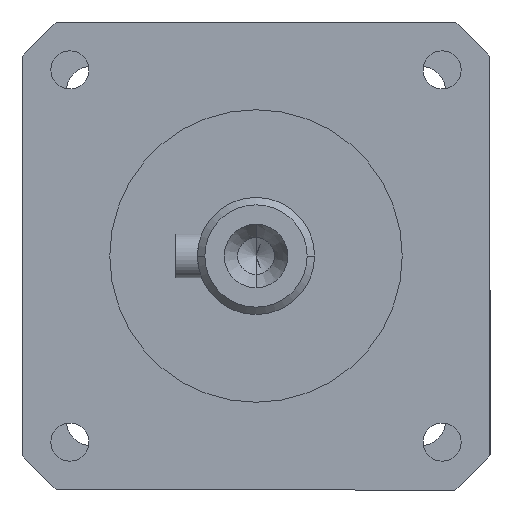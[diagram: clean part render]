
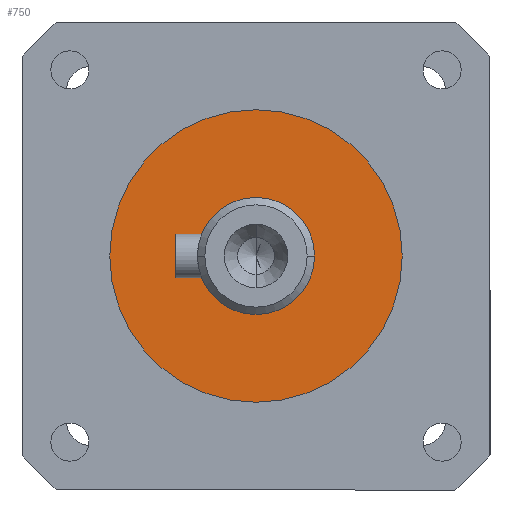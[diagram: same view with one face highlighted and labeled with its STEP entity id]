
A CAD part, left-side view. The second image highlights one B-rep face of the part: STEP entity #750.
In plain terms, the highlighted planar face has unit normal (-1, 0, 0).
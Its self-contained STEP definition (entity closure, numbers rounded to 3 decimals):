
#76 = CIRCLE ( 'NONE', #1831, 4. ) ;
#217 = CARTESIAN_POINT ( 'NONE',  ( -49., 10., 0. ) ) ;
#513 = CIRCLE ( 'NONE', #1828, 10. ) ;
#557 = VERTEX_POINT ( 'NONE', #217 ) ;
#750 = ADVANCED_FACE ( 'NONE', ( #4091, #4090 ), #5499, .T. ) ;
#988 = DIRECTION ( 'NONE',  ( 0., 1., 0. ) ) ;
#989 = DIRECTION ( 'NONE',  ( 1., 0., 0. ) ) ;
#990 = CARTESIAN_POINT ( 'NONE',  ( -49., 0., 0. ) ) ;
#1008 = DIRECTION ( 'NONE',  ( 0., 1., 0. ) ) ;
#1010 = DIRECTION ( 'NONE',  ( 1., 0., 0. ) ) ;
#1011 = CARTESIAN_POINT ( 'NONE',  ( -49., 0., 0. ) ) ;
#1322 = EDGE_CURVE ( 'NONE', #557, #5421, #513, .T. ) ;
#1328 = EDGE_CURVE ( 'NONE', #5315, #5318, #76, .T. ) ;
#1425 = EDGE_CURVE ( 'NONE', #5318, #5315, #5179, .T. ) ;
#1426 = EDGE_CURVE ( 'NONE', #5421, #557, #5175, .T. ) ;
#1609 = AXIS2_PLACEMENT_3D ( 'NONE', #5588, #5587, #5586 ) ;
#1828 = AXIS2_PLACEMENT_3D ( 'NONE', #1011, #1010, #1008 ) ;
#1831 = AXIS2_PLACEMENT_3D ( 'NONE', #990, #989, #988 ) ;
#1878 = AXIS2_PLACEMENT_3D ( 'NONE', #4432, #4430, #4426 ) ;
#1879 = AXIS2_PLACEMENT_3D ( 'NONE', #4424, #4422, #4417 ) ;
#2122 = EDGE_LOOP ( 'NONE', ( #2284, #2282 ) ) ;
#2279 = ORIENTED_EDGE ( 'NONE', *, *, #1426, .F. ) ;
#2280 = ORIENTED_EDGE ( 'NONE', *, *, #1322, .F. ) ;
#2282 = ORIENTED_EDGE ( 'NONE', *, *, #1425, .T. ) ;
#2284 = ORIENTED_EDGE ( 'NONE', *, *, #1328, .T. ) ;
#2353 = EDGE_LOOP ( 'NONE', ( #2280, #2279 ) ) ;
#2586 = CARTESIAN_POINT ( 'NONE',  ( -49., -10., 0. ) ) ;
#4090 = FACE_OUTER_BOUND ( 'NONE', #2353, .T. ) ;
#4091 = FACE_BOUND ( 'NONE', #2122, .T. ) ;
#4417 = DIRECTION ( 'NONE',  ( 0., 1., 0. ) ) ;
#4422 = DIRECTION ( 'NONE',  ( 1., 0., 0. ) ) ;
#4424 = CARTESIAN_POINT ( 'NONE',  ( -49., 0., 0. ) ) ;
#4426 = DIRECTION ( 'NONE',  ( 0., 1., 0. ) ) ;
#4430 = DIRECTION ( 'NONE',  ( 1., 0., 0. ) ) ;
#4432 = CARTESIAN_POINT ( 'NONE',  ( -49., 0., 0. ) ) ;
#4789 = CARTESIAN_POINT ( 'NONE',  ( -49., 4., 0. ) ) ;
#4790 = CARTESIAN_POINT ( 'NONE',  ( -49., -4., 0. ) ) ;
#5175 = CIRCLE ( 'NONE', #1879, 10. ) ;
#5179 = CIRCLE ( 'NONE', #1878, 4. ) ;
#5315 = VERTEX_POINT ( 'NONE', #4789 ) ;
#5318 = VERTEX_POINT ( 'NONE', #4790 ) ;
#5421 = VERTEX_POINT ( 'NONE', #2586 ) ;
#5499 = PLANE ( 'NONE',  #1609 ) ;
#5586 = DIRECTION ( 'NONE',  ( 0., -1., 0. ) ) ;
#5587 = DIRECTION ( 'NONE',  ( -1., 0., 0. ) ) ;
#5588 = CARTESIAN_POINT ( 'NONE',  ( -49., 4., 0. ) ) ;
